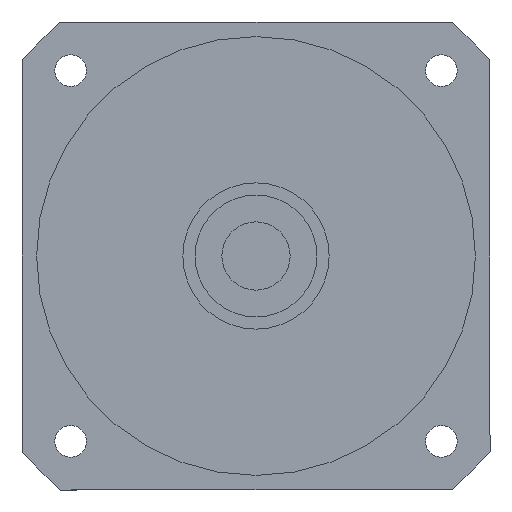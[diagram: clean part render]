
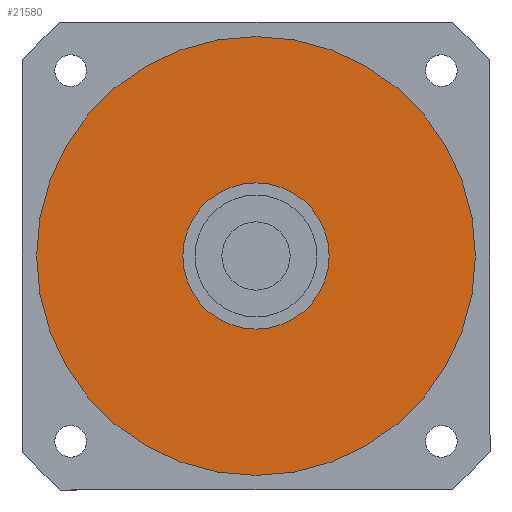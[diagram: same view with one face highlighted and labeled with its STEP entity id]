
A CAD part, left-side view. The second image highlights one B-rep face of the part: STEP entity #21580.
In plain terms, the highlighted planar face has unit normal (-1, 0, 0) as drawn and (0, 0, -1) by its records, which use the part's own axes.
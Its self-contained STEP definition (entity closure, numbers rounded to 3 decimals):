
#21000=CARTESIAN_POINT('',(-90.,0.,-116.5));
#21010=VERTEX_POINT('',#21000);
#21100=CARTESIAN_POINT('',(90.,0.,-116.5));
#21110=VERTEX_POINT('',#21100);
#21140=CARTESIAN_POINT('',(0.,0.,
-116.5));
#21150=DIRECTION('',(0.,0.,1.));
#21160=DIRECTION('',(0.,-1.,0.));
#21170=AXIS2_PLACEMENT_3D('',#21140,#21150,#21160);
#21180=CIRCLE('',#21170,90.);
#21190=CARTESIAN_POINT('',(0.,-90.,-116.5));
#21200=VERTEX_POINT('',#21190);
#21210=EDGE_CURVE('',#21200,#21110,#21180,.T.);
#21230=EDGE_CURVE('',#21010,#21200,#21180,.T.);
#21280=CARTESIAN_POINT('',(0.,0.,
-116.5));
#21290=DIRECTION('',(0.,0.,1.));
#21300=DIRECTION('',(-1.,0.,0.));
#21310=AXIS2_PLACEMENT_3D('',#21280,#21290,#21300);
#21320=PLANE('',#21310);
#21330=ORIENTED_EDGE('',*,*,#21210,.F.);
#21340=EDGE_CURVE('',#21110,#21010,#21180,.T.);
#21350=ORIENTED_EDGE('',*,*,#21340,.F.);
#21360=ORIENTED_EDGE('',*,*,#21230,.F.);
#21370=EDGE_LOOP('',(#21360,#21350,#21330));
#21380=FACE_OUTER_BOUND('',#21370,.T.);
#21390=CARTESIAN_POINT('',(0.,0.,
-116.5));
#21400=DIRECTION('',(0.,0.,1.));
#21410=DIRECTION('',(0.,-1.,0.));
#21420=AXIS2_PLACEMENT_3D('',#21390,#21400,#21410);
#21430=CIRCLE('',#21420,30.);
#21440=CARTESIAN_POINT('',(30.,0.,-116.5));
#21450=VERTEX_POINT('',#21440);
#21460=CARTESIAN_POINT('',(-30.,0.,-116.5));
#21470=VERTEX_POINT('',#21460);
#21480=EDGE_CURVE('',#21450,#21470,#21430,.T.);
#21490=ORIENTED_EDGE('',*,*,#21480,.T.);
#21500=CARTESIAN_POINT('',(0.,-30.,-116.5));
#21510=VERTEX_POINT('',#21500);
#21520=EDGE_CURVE('',#21510,#21450,#21430,.T.);
#21530=ORIENTED_EDGE('',*,*,#21520,.T.);
#21540=EDGE_CURVE('',#21470,#21510,#21430,.T.);
#21550=ORIENTED_EDGE('',*,*,#21540,.T.);
#21560=EDGE_LOOP('',(#21550,#21530,#21490));
#21570=FACE_BOUND('',#21560,.T.);
#21580=ADVANCED_FACE('',(#21380,#21570),#21320,.F.);
